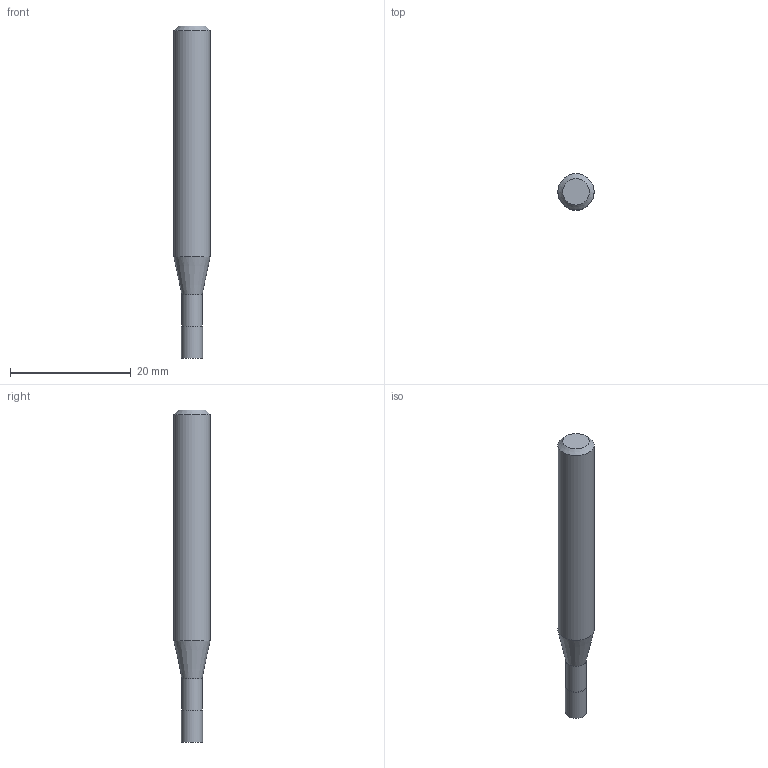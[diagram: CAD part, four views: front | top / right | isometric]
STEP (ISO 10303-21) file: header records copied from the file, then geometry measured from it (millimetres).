
FILE_DESCRIPTION((''),'2;1');
FILE_NAME('C:\Users\nsx150\AppData\Local\Temp\Mastercam 2021\EUJSUNXURU\TEMP.step','2021-04-22T10:28:08',(''),(''),'STEP Write','Mastercam 2021 ... CNC Software, Inc.','');
FILE_SCHEMA(('AUTOMOTIVE_DESIGN'));
Length unit declared in the file: millimetre
Products named in the file (1): None
Bounding box: 6 x 6 x 55 mm (x, y, z)
Volume: 1283.2 mm3; surface area: 974.6 mm2
Topology: 2 solids, 2 shells, 9 faces, 12 edges, 7 vertices
Faces by surface type: plane 4, cylinder 3, cone 2
Full cylindrical faces by diameter (mm): 3.35 x1, 3.5 x1, 6 x1
Entity records: 211 total; most frequent: DIRECTION 36, CARTESIAN_POINT 25, AXIS2_PLACEMENT_3D 18, ORIENTED_EDGE 14, EDGE_LOOP 14, STYLED_ITEM 12, ADVANCED_FACE 9, FACE_BOUND 8
